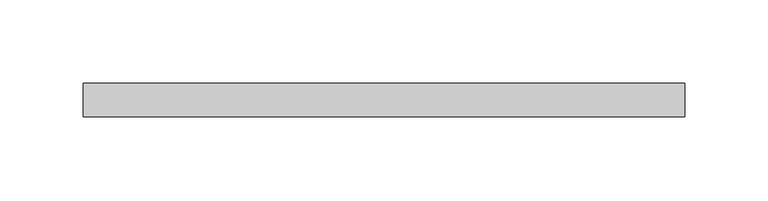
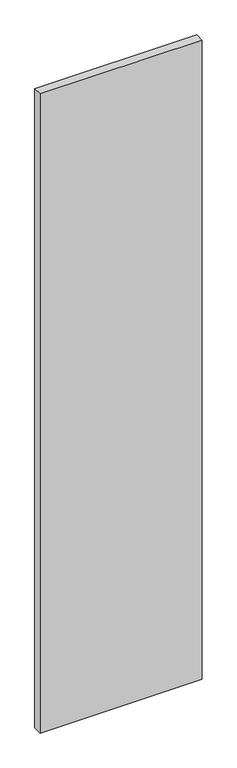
"""IFC4 building model written with IfcOpenShell, lengths in millimetres: proxy geometry, КНАУФ-Файерборд : КНАУФ-Файерборд."""

from ifc_helpers import new_model, si_unit, origin, origin_with_axes, place, context, project, spatial, polyline, outline, extrude, source, transform, mapped, element, save


def generic_models_1c3e6b41(model_context):
    return source(origin(), model_context, "Body", "SweptSolid", [
        extrude(outline(polyline([(180.0, 0.0), (-180.0, 0.0), (-180.0, 20.0), (180.0, 20.0), (180.0, 0.0)])), origin_with_axes(), (0.0, 0.0, 1.0), 1500.0),
    ])


if __name__ == "__main__":
    model = new_model("IFC4")
    model_context = context("Model", 3, world=origin())
    ifc_project = project(units=[si_unit("LENGTHUNIT", "METRE", prefix="MILLI")], contexts=[model_context])
    site = spatial("IfcSite", under=ifc_project)
    building = spatial("IfcBuilding", under=site)
    placement = place(None, origin())
    generic_models_shape = generic_models_1c3e6b41(model_context)
    element("IfcBuildingElementProxy", 1, Name="КНАУФ-Файерборд : КНАУФ-Файерборд", ObjectType="КНАУФ-Файерборд : КНАУФ-Файерборд", at=placement, inside=building, context=model_context, shape_type="MappedRepresentation", body=[
        mapped(generic_models_shape, transform((0.0, 0.0, 0.0), x_axis=(1.0, 0.0, 0.0), y_axis=(0.0, 1.0, 0.0), z_axis=(0.0, 0.0, 1.0))),
    ])
    save(model, "model.ifc")
